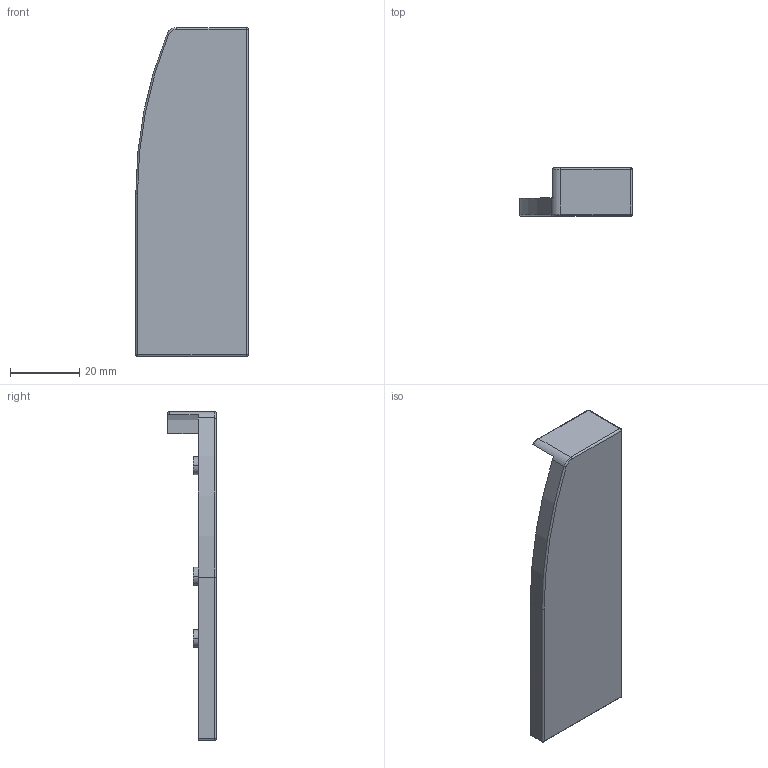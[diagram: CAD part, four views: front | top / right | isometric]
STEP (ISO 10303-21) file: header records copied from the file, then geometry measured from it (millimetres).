
FILE_DESCRIPTION (( 'STEP AP214' ), '1' );
FILE_NAME ('Frontblendenhalter_Deluxe_nieder_links.step', '2010-10-27T11:57:00', ( 'grass' ), ( '' ), 'SwSTEP 2.0', 'SolidWorks 2010', '' );
FILE_SCHEMA (( 'AUTOMOTIVE_DESIGN' ));
Length unit declared in the file: millimetre
Products named in the file (1): Frontblendenhalter_Deluxe_nieder_links
Bounding box: 32.5 x 14 x 95.15 mm (x, y, z)
Volume: 14021 mm3; surface area: 7709.8 mm2
Topology: 1 solids, 1 shells, 47 faces, 111 edges, 66 vertices
Faces by surface type: plane 22, cylinder 18, sphere 4, torus 3
Entity records: 1355 total; most frequent: DIRECTION 243, CARTESIAN_POINT 230, ORIENTED_EDGE 214, EDGE_CURVE 107, AXIS2_PLACEMENT_3D 89, VERTEX_POINT 66, VECTOR 65, LINE 65
